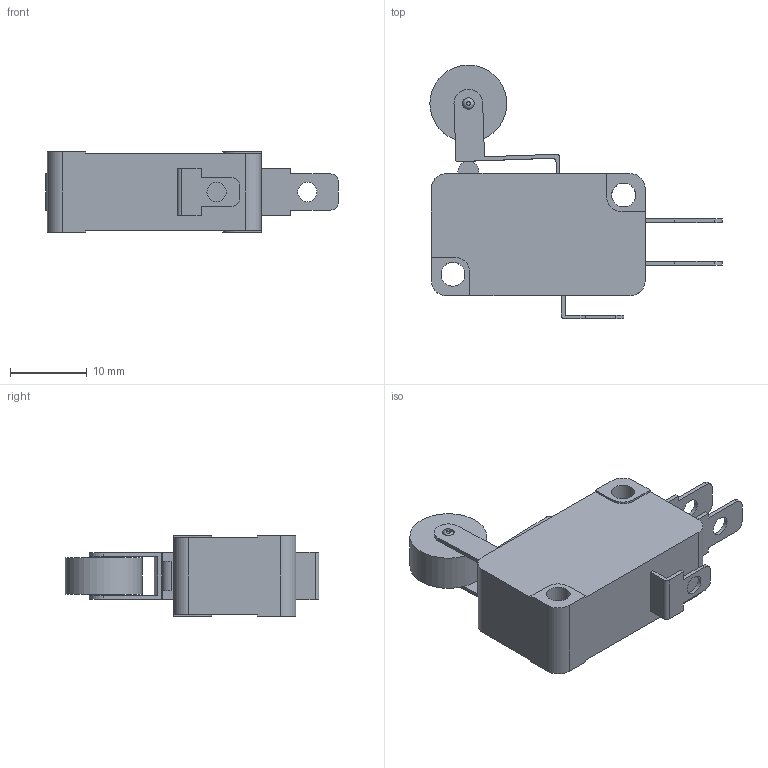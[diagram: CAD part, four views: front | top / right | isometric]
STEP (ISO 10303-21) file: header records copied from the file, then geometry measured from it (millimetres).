
FILE_DESCRIPTION(/* description */ (''),/* implementation_level */ '2;1');
FILE_NAME(/* name */ 'E:\Inventor 2016\제품 외형도\(완료) 리미트 스위치\소형 마이크로 스위치 (V형)\YS R3-15C.stp',/* time_stamp */ '2019-04-09T10:03:48+09:00',/* author */ ('Kim'),/* organization */ (''),/* preprocessor_version */ 'ST-DEVELOPER v16.1',/* originating_system */ 'Autodesk Inventor 2016',/* authorisation */ '');
FILE_SCHEMA (('AUTOMOTIVE_DESIGN { 1 0 10303 214 3 1 1 }'));
Length unit declared in the file: millimetre
Products named in the file (1): YS R3-15C
Bounding box: 38 x 33 x 10.5 mm (x, y, z)
Volume: 4775.1 mm3; surface area: 3145.6 mm2
Topology: 4 solids, 4 shells, 109 faces, 285 edges, 190 vertices
Faces by surface type: plane 77, cylinder 30, bspline 2
Full cylindrical faces by diameter (mm): 1.5 x4, 2.5 x3, 3.1 x2, 10 x1
Entity records: 3465 total; most frequent: CARTESIAN_POINT 631, DIRECTION 553, ORIENTED_EDGE 550, EDGE_CURVE 275, LINE 209, VECTOR 209, VERTEX_POINT 190, AXIS2_PLACEMENT_3D 172
